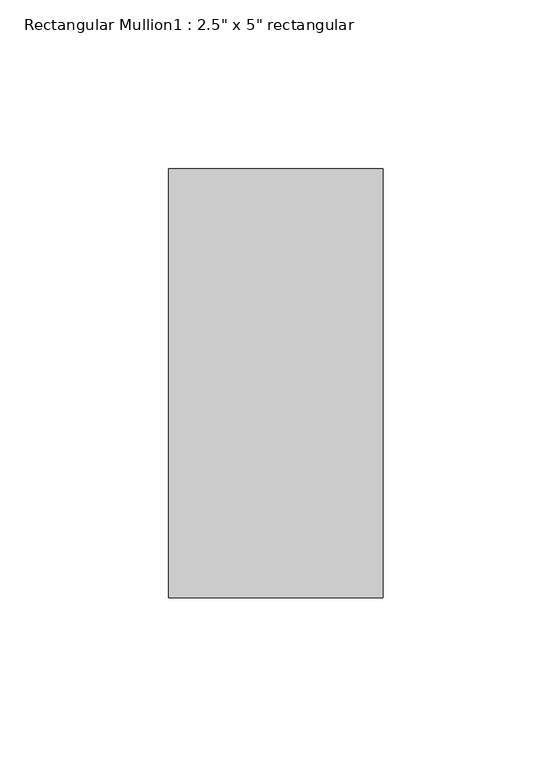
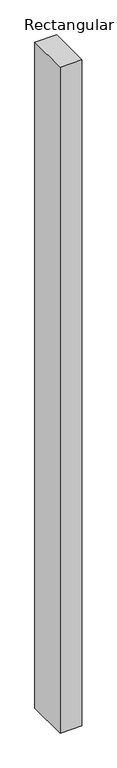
"""IFC4 building model written with IfcOpenShell, lengths in millimetres: member geometry."""

from ifc_helpers import new_model, si_unit, frame, origin, place, context, project, spatial, polyline, outline, extrude, source, transform, mapped, element, save


def member_60f5540e(model_context):
    return source(origin(), model_context, "Body", "SweptSolid", [
        extrude(outline(polyline([(0.0, 63.5), (0.0, -63.5), (-63.5, -63.5), (-63.5, 63.5), (0.0, 63.5)])), frame((0.0, 0.0, -2053.1666667), z_axis=(0.0, 0.0, 1.0), x_axis=(1.0, 0.0, 0.0)), (0.0, 0.0, 1.0), 2053.1666667),
    ])


if __name__ == "__main__":
    model = new_model("IFC4")
    model_context = context("Model", 3, world=origin())
    ifc_project = project(units=[si_unit("LENGTHUNIT", "METRE", prefix="MILLI")], contexts=[model_context])
    site = spatial("IfcSite", under=ifc_project)
    building = spatial("IfcBuilding", under=site)
    placement = place(None, origin())
    member_shape = member_60f5540e(model_context)
    element("IfcMember", 1, ObjectType="Rectangular Mullion1 : 2.5\" x 5\" rectangular", at=placement, inside=building, context=model_context, shape_type="MappedRepresentation", body=[
        mapped(member_shape, transform((0.0, 0.0, 0.0), x_axis=(1.0, 0.0, 0.0), y_axis=(0.0, 1.0, 0.0), z_axis=(0.0, 0.0, 1.0))),
    ])
    save(model, "model.ifc")
